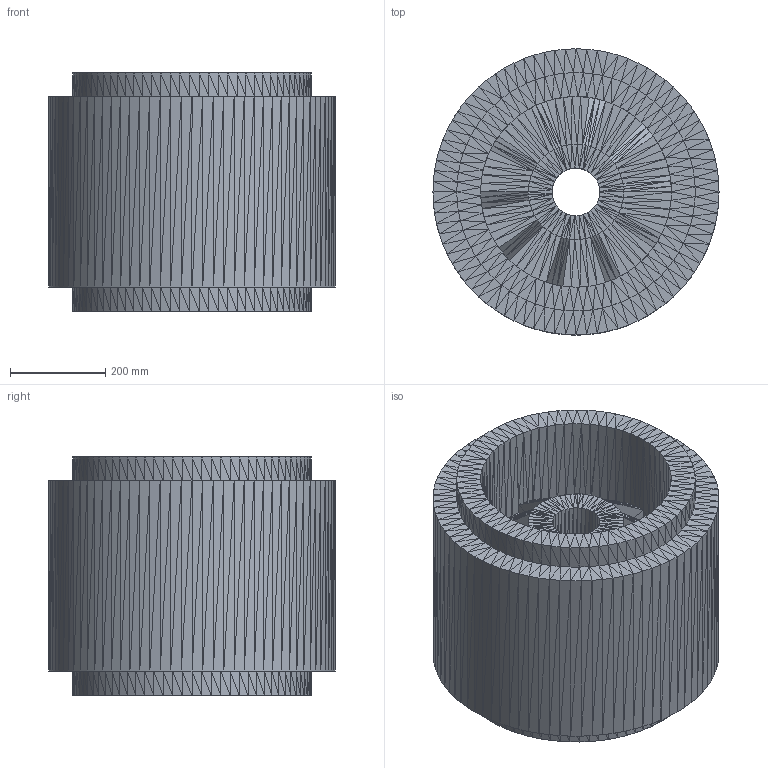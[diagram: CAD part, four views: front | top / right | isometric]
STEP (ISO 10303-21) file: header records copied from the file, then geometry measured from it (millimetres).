
FILE_DESCRIPTION(/* description */ (''),/* implementation_level */ '2;1');
FILE_NAME(/* name */ 'Rim(1).step',/* time_stamp */ '2024-12-06T22:11:50-03:00',/* author */ (''),/* organization */ (''),/* preprocessor_version */ 'ST-DEVELOPER v20',/* originating_system */ 'Autodesk Translation Framework v13.20.0.188',/* authorisation */ '');
FILE_SCHEMA (('AUTOMOTIVE_DESIGN { 1 0 10303 214 3 1 1 }'));
Length unit declared in the file: millimetre
Products named in the file (1): (Unsaved)
Bounding box: 600 x 600 x 499.4 mm (x, y, z)
Volume: 108409510.5 mm3; surface area: 1981976.9 mm2
Topology: 1 solids, 1 shells, 1740 faces, 2610 edges, 870 vertices
Faces by surface type: plane 1740
Entity records: 33971 total; most frequent: DIRECTION 6092, CARTESIAN_POINT 5221, ORIENTED_EDGE 5220, LINE 2610, VECTOR 2610, EDGE_CURVE 2610, AXIS2_PLACEMENT_3D 1741, FACE_OUTER_BOUND 1740
